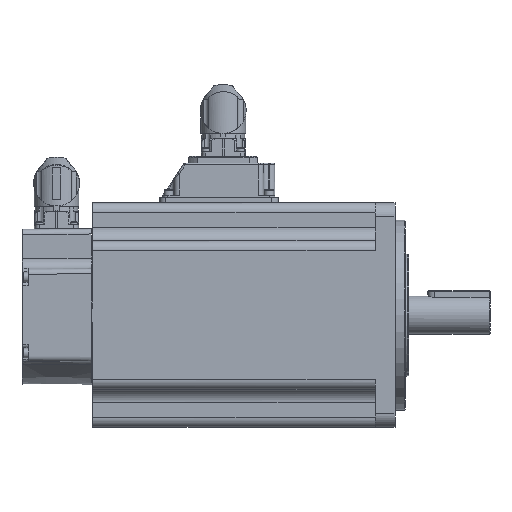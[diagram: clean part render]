
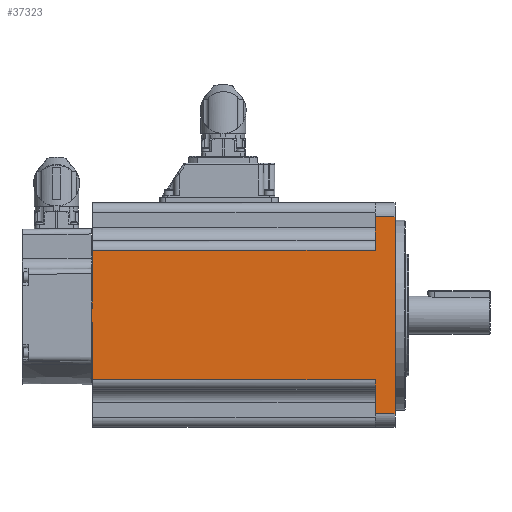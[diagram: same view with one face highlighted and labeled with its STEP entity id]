
A CAD part, left-side view. The second image highlights one B-rep face of the part: STEP entity #37323.
In plain terms, the highlighted planar face has unit normal (-1, 0, 0).
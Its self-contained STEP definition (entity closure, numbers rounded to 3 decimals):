
#37323 = ADVANCED_FACE( '', ( #58949 ), #58950, .T. );
#58949 = FACE_OUTER_BOUND( '', #68123, .T. );
#58950 = PLANE( '', #68124 );
#62032 = EDGE_CURVE( '', #73501, #73503, #73504, .T. );
#62517 = EDGE_CURVE( '', #74263, #74264, #74265, .T. );
#62636 = EDGE_CURVE( '', #74447, #74264, #74448, .F. );
#62854 = EDGE_CURVE( '', #74447, #74785, #74786, .T. );
#63989 = EDGE_CURVE( '', #76468, #76466, #76469, .T. );
#65101 = EDGE_CURVE( '', #77942, #76468, #77943, .T. );
#65411 = EDGE_CURVE( '', #73501, #74785, #78353, .T. );
#68123 = EDGE_LOOP( '', ( #82997, #82998, #82999, #83000, #83001, #83002, #83003, #83004, #83005 ) );
#68124 = AXIS2_PLACEMENT_3D( '', #83006, #83007, #83008 );
#73501 = VERTEX_POINT( '', #95028 );
#73503 = VERTEX_POINT( '', #95030 );
#73504 = LINE( '', #95031, #95032 );
#74263 = VERTEX_POINT( '', #96469 );
#74264 = VERTEX_POINT( '', #96470 );
#74265 = LINE( '', #96471, #96472 );
#74447 = VERTEX_POINT( '', #96798 );
#74448 = LINE( '', #96799, #96800 );
#74785 = VERTEX_POINT( '', #97731 );
#74786 = LINE( '', #97732, #97733 );
#76466 = VERTEX_POINT( '', #101415 );
#76468 = VERTEX_POINT( '', #101417 );
#76469 = LINE( '', #101418, #101419 );
#77942 = VERTEX_POINT( '', #105167 );
#77943 = LINE( '', #105168, #105169 );
#78353 = LINE( '', #106082, #106083 );
#82997 = ORIENTED_EDGE( '', *, *, #111044, .T. );
#82998 = ORIENTED_EDGE( '', *, *, #62032, .F. );
#82999 = ORIENTED_EDGE( '', *, *, #65411, .T. );
#83000 = ORIENTED_EDGE( '', *, *, #62854, .F. );
#83001 = ORIENTED_EDGE( '', *, *, #62636, .T. );
#83002 = ORIENTED_EDGE( '', *, *, #62517, .F. );
#83003 = ORIENTED_EDGE( '', *, *, #111045, .T. );
#83004 = ORIENTED_EDGE( '', *, *, #65101, .T. );
#83005 = ORIENTED_EDGE( '', *, *, #63989, .T. );
#83006 = CARTESIAN_POINT( '', ( -65., 70.8, -65. ) );
#83007 = DIRECTION( '', ( -1., 0., 0. ) );
#83008 = DIRECTION( '', ( 0., 0., 1. ) );
#95028 = CARTESIAN_POINT( '', ( -65., -21.4, -57. ) );
#95030 = CARTESIAN_POINT( '', ( -65., -21.4, -37.5 ) );
#95031 = CARTESIAN_POINT( '', ( -65., -21.4, 65. ) );
#95032 = VECTOR( '', #115001, 1000. );
#96469 = CARTESIAN_POINT( '', ( -65., -21.4, 37.5 ) );
#96470 = CARTESIAN_POINT( '', ( -65., -21.4, 57. ) );
#96471 = CARTESIAN_POINT( '', ( -65., -21.4, 65. ) );
#96472 = VECTOR( '', #115606, 1000. );
#96798 = CARTESIAN_POINT( '', ( -65., -32.9, 57. ) );
#96799 = CARTESIAN_POINT( '', ( -65., 283.758, 57. ) );
#96800 = VECTOR( '', #115772, 1000. );
#97731 = CARTESIAN_POINT( '', ( -65., -32.9, -57. ) );
#97732 = CARTESIAN_POINT( '', ( -65., -32.9, 65. ) );
#97733 = VECTOR( '', #116022, 1000. );
#101415 = CARTESIAN_POINT( '', ( -65., 142.273, -37.5 ) );
#101417 = CARTESIAN_POINT( '', ( -65., 142.6, 0. ) );
#101418 = CARTESIAN_POINT( '', ( -65., 142.027, -65.622 ) );
#101419 = VECTOR( '', #117445, 1000. );
#105167 = CARTESIAN_POINT( '', ( -65., 142.273, 37.5 ) );
#105168 = CARTESIAN_POINT( '', ( -65., 143.162, -64.369 ) );
#105169 = VECTOR( '', #118640, 1000. );
#106082 = CARTESIAN_POINT( '', ( -65., 283.758, -57. ) );
#106083 = VECTOR( '', #118991, 1000. );
#111044 = EDGE_CURVE( '', #76466, #73503, #121466, .F. );
#111045 = EDGE_CURVE( '', #74263, #77942, #121467, .F. );
#115001 = DIRECTION( '', ( 0., 0., 1. ) );
#115606 = DIRECTION( '', ( 0., 0., 1. ) );
#115772 = DIRECTION( '', ( 0., -1., 0. ) );
#116022 = DIRECTION( '', ( 0., 0., -1. ) );
#117445 = DIRECTION( '', ( 0., -0.009, -1. ) );
#118640 = DIRECTION( '', ( 0., 0.009, -1. ) );
#118991 = DIRECTION( '', ( 0., -1., 0. ) );
#121466 = LINE( '', #123199, #123200 );
#121467 = LINE( '', #123201, #123202 );
#123199 = CARTESIAN_POINT( '', ( -65., 70.8, -37.5 ) );
#123200 = VECTOR( '', #124198, 1000. );
#123201 = CARTESIAN_POINT( '', ( -65., 150.8, 37.5 ) );
#123202 = VECTOR( '', #124199, 1000. );
#124198 = DIRECTION( '', ( 0., 1., 0. ) );
#124199 = DIRECTION( '', ( 0., -1., 0. ) );
